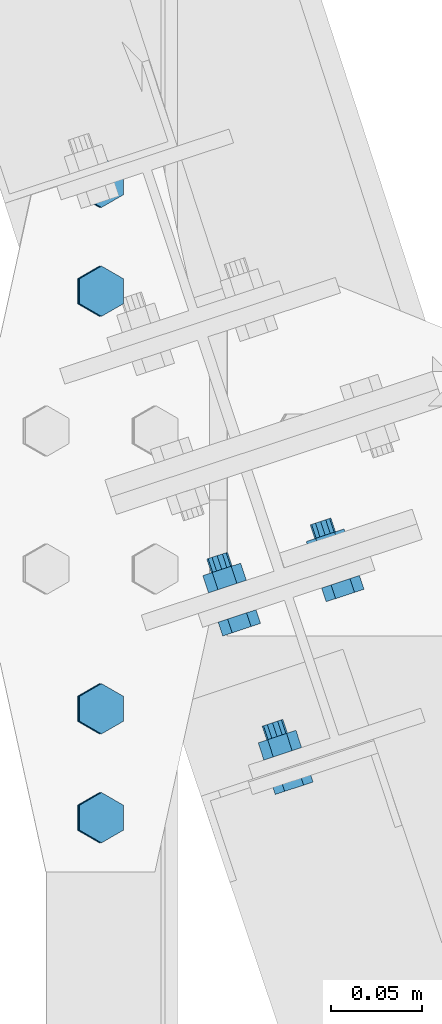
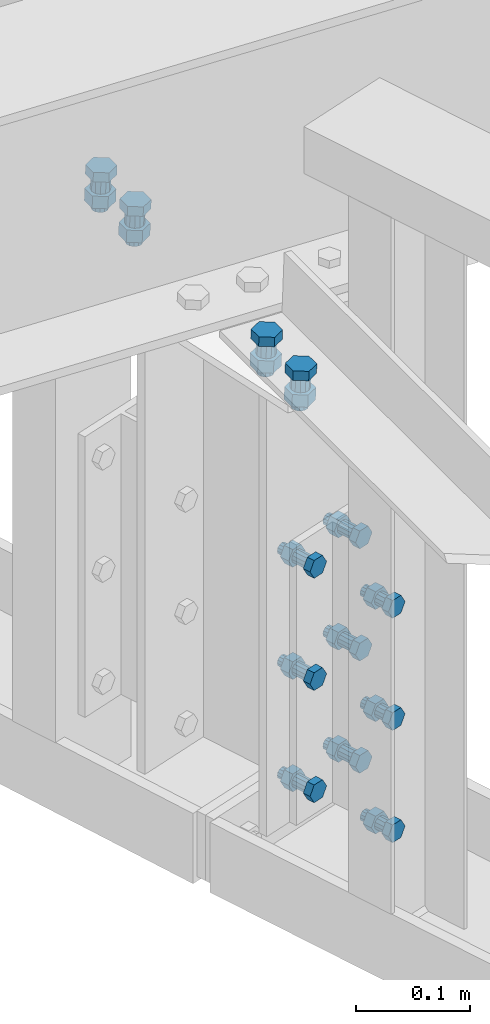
# One storey, part 48 of 3134: 4 mechanical fasteners, 4 elements without a shape of their own.
"""IFC2X3 building model written with IfcOpenShell, lengths in millimetres."""

import ifcopenshell
import ifcopenshell.guid

model = None  # the IFC model being written
_history = None  # IfcOwnerHistory: only IFC2X3 demands one
_inside = {}  # id of a spatial element -> (the spatial element, [elements in it])
_under = {}  # id of a project, library or spatial element -> (it, [spatial elements below it])
_declared = {}  # id of a project -> (the project, [libraries it declares])
_typed = {}  # id of a type object -> (the type object, [elements of that type])
_made_of = {}  # id of a material, layer set ... -> (it, [elements and type objects made of it])


def new_model(schema):
    """Start an empty IFC model of exactly this schema.

    Asked for "IFC4X3", IfcOpenShell would pick the latest addendum, in which some entities
    have other attributes; the version numbers below select the first issue.
    IFC2X3 requires an IfcOwnerHistory on every rooted entity: one is made here for all.
    """
    global model, _history
    if schema == "IFC4X3":
        model = ifcopenshell.file(schema_version=(4, 3, 0, 0))
    else:
        model = ifcopenshell.file(schema=schema)
    _inside.clear()
    _under.clear()
    _declared.clear()
    _typed.clear()
    _made_of.clear()
    _history = None
    if model.schema == "IFC2X3":
        org = make("IfcOrganization", Name="unknown")
        user = make(
            "IfcPersonAndOrganization",
            ThePerson=make("IfcPerson", FamilyName="unknown"),
            TheOrganization=org,
        )
        app = make(
            "IfcApplication",
            ApplicationDeveloper=org,
            Version="unknown",
            ApplicationFullName="unknown",
            ApplicationIdentifier="unknown",
        )
        _history = make(
            "IfcOwnerHistory",
            OwningUser=user,
            OwningApplication=app,
            ChangeAction="ADDED",
            CreationDate=0,
        )
    return model


def make(cls, **values):
    """One entity of the class cls with the attributes given. An attribute that is None is left unset."""
    return model.create_entity(
        cls, **{name: value for name, value in values.items() if value is not None}
    )


def rooted(cls, **values):
    """An entity with a GlobalId (a new one), such as an element, a storey or a relation."""
    return make(cls, GlobalId=ifcopenshell.guid.new(), OwnerHistory=_history, **values)


def si_unit(unit_type, name, prefix=None):
    """IfcSIUnit, for example si_unit("LENGTHUNIT", "METRE", prefix="MILLI")."""
    return make("IfcSIUnit", UnitType=unit_type, Prefix=prefix, Name=name)


def assignment(units):
    """IfcUnitAssignment: the units of a project."""
    return None if units is None else make("IfcUnitAssignment", Units=units)


def point(xyz):
    """IfcCartesianPoint."""
    return None if xyz is None else make("IfcCartesianPoint", Coordinates=xyz)


def direction(xyz):
    """IfcDirection."""
    return None if xyz is None else make("IfcDirection", DirectionRatios=xyz)


def frame(location, z_axis=None, x_axis=None):
    """IfcAxis2Placement3D, a coordinate frame: its origin and axes. An axis left out is left unset."""
    return make(
        "IfcAxis2Placement3D",
        Location=point(location),
        Axis=direction(z_axis),
        RefDirection=direction(x_axis),
    )


def origin_with_axes():
    """The frame at (0, 0, 0) with the z axis (0, 0, 1) and the x axis (1, 0, 0) written out."""
    return frame((0.0, 0.0, 0.0), z_axis=(0.0, 0.0, 1.0), x_axis=(1.0, 0.0, 0.0))


def place(relative_to, where):
    """IfcLocalPlacement: puts the frame where relative to a parent placement (None: the world)."""
    return make(
        "IfcLocalPlacement", PlacementRelTo=relative_to, RelativePlacement=where
    )


def context(
    kind, dimensions, precision=None, world=None, true_north=None, identifier=None
):
    """IfcGeometricRepresentationContext, for example the 3D "Model" context."""
    return make(
        "IfcGeometricRepresentationContext",
        ContextIdentifier=identifier,
        ContextType=kind,
        CoordinateSpaceDimension=dimensions,
        Precision=precision,
        WorldCoordinateSystem=world,
        TrueNorth=true_north,
    )


def subcontext(parent, identifier, kind, view, scale=None):
    """IfcGeometricRepresentationSubContext, for example "Body" below "Model"."""
    return make(
        "IfcGeometricRepresentationSubContext",
        ContextIdentifier=identifier,
        ContextType=kind,
        ParentContext=parent,
        TargetScale=scale,
        TargetView=view,
    )


def project(units=None, contexts=None):
    """IfcProject with its units and contexts."""
    return rooted(
        "IfcProject",
        Name="project",
        RepresentationContexts=contexts,
        UnitsInContext=assignment(units),
    )


def spatial(cls, under=None, at=None, **own):
    """A site, building, storey or space (cls), placed at a placement, below another one or the project."""
    s = rooted(cls, ObjectPlacement=at, **own)
    if under is not None:
        _under.setdefault(under.id(), (under, []))[1].append(s)
    return s


def faces_of(points, faces, orient=None, outer=None):
    """IfcFace entities. A face is a list of loops; a loop is a list of indices into points, from 0.

    orient and outer hold one flag for each loop. By default every Orientation is true, the
    first loop of a face is its IfcFaceOuterBound and the others are IfcFaceBound.
    """
    made = []
    for i, loops in enumerate(faces):
        bounds = []
        for j, loop in enumerate(loops):
            is_outer = j == 0 if outer is None else outer[i][j]
            bounds.append(
                make(
                    "IfcFaceOuterBound" if is_outer else "IfcFaceBound",
                    Bound=make("IfcPolyLoop", Polygon=[points[k] for k in loop]),
                    Orientation=True if orient is None else orient[i][j],
                )
            )
        made.append(make("IfcFace", Bounds=bounds))
    return made


def faceted_brep(points, faces, orient=None, outer=None, voids=None):
    """IfcFacetedBrep: a solid bounded by flat faces; with voids (closed shells), ...WithVoids."""
    shared = [point(p) for p in points]
    hull = make("IfcClosedShell", CfsFaces=faces_of(shared, faces, orient, outer))
    if voids is None:
        return make("IfcFacetedBrep", Outer=hull)
    return make(
        "IfcFacetedBrepWithVoids",
        Outer=hull,
        Voids=[
            make(cls, CfsFaces=faces_of(shared, fs, o, b)) for cls, fs, o, b in voids
        ],
    )


def shape(context_of_items, identifier, shape_type, items):
    """IfcShapeRepresentation: the items that make up one representation, for example the "Body"."""
    return make(
        "IfcShapeRepresentation",
        ContextOfItems=context_of_items,
        RepresentationIdentifier=identifier,
        RepresentationType=shape_type,
        Items=items,
    )


def source(mapping_origin, context_of_items, identifier, shape_type, items):
    """IfcRepresentationMap: a shape defined once, which mapped items show again and again."""
    return make(
        "IfcRepresentationMap",
        MappingOrigin=mapping_origin,
        MappedRepresentation=shape(context_of_items, identifier, shape_type, items),
    )


def transform(
    local_origin,
    x_axis=None,
    y_axis=None,
    z_axis=None,
    scale=None,
    scale2=None,
    scale3=None,
    uniform=True,
):
    """IfcCartesianTransformationOperator3D, or its non-uniform kind. x_axis, y_axis, z_axis: its Axis1, 2, 3."""
    if uniform:
        return make(
            "IfcCartesianTransformationOperator3D",
            Axis1=direction(x_axis),
            Axis2=direction(y_axis),
            LocalOrigin=point(local_origin),
            Scale=scale,
            Axis3=direction(z_axis),
        )
    return make(
        "IfcCartesianTransformationOperator3DnonUniform",
        Axis1=direction(x_axis),
        Axis2=direction(y_axis),
        LocalOrigin=point(local_origin),
        Scale=scale,
        Axis3=direction(z_axis),
        Scale2=scale2,
        Scale3=scale3,
    )


def mapped(mapping_source, mapping_target):
    """IfcMappedItem: shows the shape of a source again, moved by a transform."""
    return make(
        "IfcMappedItem", MappingSource=mapping_source, MappingTarget=mapping_target
    )


def material(Name=None, Category=None):
    """IfcMaterial."""
    return make("IfcMaterial", Name=Name, Category=Category)


def made_of(thing, what):
    """Note that an element or type object is made of a material, layer set ...; save() writes the relation."""
    if what is not None:
        _made_of.setdefault(what.id(), (what, []))[1].append(thing)
    return thing


def type_object(cls, material=None, **own):
    """A type object (cls), such as IfcWallType, which elements share."""
    return made_of(rooted(cls, **own), material)


def element(
    cls,
    number,
    at=None,
    inside=None,
    cuts=None,
    type_object=None,
    material=None,
    context=None,
    identifier="Body",
    shape_type=None,
    held_by="IfcProductDefinitionShape",
    body=None,
    shapes=None,
    **own,
):
    """One element of the class cls, such as IfcWall. Its Tag is "e" and its number.

    at: its placement. inside: the storey or other place that contains it. cuts: it is an
    opening in that element (IfcRelVoidsElement). A single representation is given by context,
    identifier, shape_type and body (its items); several are given by shapes. held_by: the class
    of the entity that holds the representations. save() writes the other relations.
    """
    e = rooted(cls, Tag="e%d" % number, ObjectPlacement=at, **own)
    if body is not None:
        shapes = [shape(context, identifier, shape_type, body)]
    if shapes is not None:
        e.Representation = make(held_by, Representations=shapes)
    if inside is not None:
        _inside.setdefault(inside.id(), (inside, []))[1].append(e)
    if cuts is not None:
        rooted(
            "IfcRelVoidsElement", RelatingBuildingElement=cuts, RelatedOpeningElement=e
        )
    if type_object is not None:
        _typed.setdefault(type_object.id(), (type_object, []))[1].append(e)
    return made_of(e, material)


def aggregate(whole, parts):
    """IfcRelAggregates: a whole, such as a stair, and the parts it consists of."""
    return rooted("IfcRelAggregates", RelatingObject=whole, RelatedObjects=parts)


def save(model, path):
    """Write the relations noted so far, then the file.

    IfcRelAggregates (storeys below a building ...), IfcRelContainedInSpatialStructure (elements
    in a storey), IfcRelDefinesByType, IfcRelAssociatesMaterial and IfcRelDeclares: one each for
    every whole, place, type object, material and project.
    """
    for whole, parts in _under.values():
        aggregate(whole, parts)
    for where, things in _inside.values():
        rooted(
            "IfcRelContainedInSpatialStructure",
            RelatedElements=things,
            RelatingStructure=where,
        )
    for kind, things in _typed.values():
        rooted("IfcRelDefinesByType", RelatedObjects=things, RelatingType=kind)
    for what, things in _made_of.values():
        rooted("IfcRelAssociatesMaterial", RelatedObjects=things, RelatingMaterial=what)
    for by, libraries in _declared.values():
        rooted("IfcRelDeclares", RelatingContext=by, RelatedDefinitions=libraries)
    model.write(path)


model = new_model("IFC2X3")

# Units and contexts
model_context = context("Model", 3, precision=1e-05, world=origin_with_axes())
body_context = subcontext(model_context, "Body", "Model", "MODEL_VIEW")
ifc_project = project(units=[si_unit("LENGTHUNIT", "METRE", prefix="MILLI"), si_unit("AREAUNIT", "SQUARE_METRE"), si_unit("VOLUMEUNIT", "CUBIC_METRE"), si_unit("MASSUNIT", "GRAM", prefix="KILO"), si_unit("TIMEUNIT", "SECOND"), si_unit("PLANEANGLEUNIT", "RADIAN"), si_unit("SOLIDANGLEUNIT", "STERADIAN"), si_unit("THERMODYNAMICTEMPERATUREUNIT", "DEGREE_CELSIUS"), si_unit("LUMINOUSINTENSITYUNIT", "LUMEN")], contexts=[model_context])

# Site, building, storey
site_placement = place(None, origin_with_axes())
site = spatial("IfcSite", under=ifc_project, at=site_placement, CompositionType="ELEMENT")
building_placement = place(site_placement, origin_with_axes())
building = spatial("IfcBuilding", under=site, at=building_placement, Name="Undefined", CompositionType="ELEMENT")
storey_placement = place(building_placement, origin_with_axes())
storey = spatial("IfcBuildingStorey", under=building, at=storey_placement, Name="Undefined", CompositionType="ELEMENT", Elevation=0.0)

# Assembly, mechanical fastener
assembly_1_placement = place(storey_placement, origin_with_axes())
assembly_1 = element("IfcElementAssembly", 1, at=assembly_1_placement, inside=storey, Name="HEA100", AssemblyPlace="NOTDEFINED", PredefinedType="RIGID_FRAME")
ifc_material = material(Name="8.8")
mechanical_fastener_type = type_object("IfcMechanicalFastenerType", Name="Bolt assembly")
shared_shape_1 = source(origin_with_axes(), body_context, "Body", "Brep", [
    faceted_brep([(10.9696551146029, -12.0, 0.0), (5.48482755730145, -12.0, 9.5), (-5.48482755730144, -12.0, 9.5), (-10.9696551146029, -12.0, 1.34339530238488e-15), (-5.48482755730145, -12.0, -9.5), (5.48482755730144, -12.0, -9.50000000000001), (5.48482755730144, -4.0, -9.50000000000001), (-5.48482755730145, -4.0, -9.5), (-10.9696551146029, -4.0, 1.34339530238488e-15), (-5.48482755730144, -4.0, 9.5), (5.48482755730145, -4.0, 9.5), (10.9696551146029, -4.0, 0.0), (6.0, -4.0, 0.0), (5.19615242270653, -4.0, 3.00000000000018), (2.99999999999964, -4.0, 5.19615242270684), (-6.21801588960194e-13, -4.0, 6.0), (-3.00000000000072, -4.0, 5.19615242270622), (-5.19615242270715, -4.0, 2.9999999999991), (-6.0, -4.0, -1.24360317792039e-12), (-5.19615242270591, -4.0, -3.00000000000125), (-2.99999999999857, -4.0, -5.19615242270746), (1.85874342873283e-12, -4.0, -6.0), (3.00000000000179, -4.0, -5.1961524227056), (5.19615242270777, -4.0, -2.99999999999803), (5.19615242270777, 26.0, -2.99999999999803), (3.00000000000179, 26.0, -5.1961524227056), (1.85874342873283e-12, 26.0, -6.0), (-2.99999999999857, 26.0, -5.19615242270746), (-5.19615242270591, 26.0, -3.00000000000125), (-6.0, 26.0, -1.24360317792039e-12), (-5.19615242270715, 26.0, 2.9999999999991), (-3.00000000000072, 26.0, 5.19615242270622), (-6.21801588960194e-13, 26.0, 6.0), (2.99999999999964, 26.0, 5.19615242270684), (5.19615242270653, 26.0, 3.00000000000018), (6.0, 26.0, 0.0), (10.9696551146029, 8.0, 0.0), (5.48482755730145, 8.0, 9.5), (-5.48482755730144, 8.0, 9.5), (-10.9696551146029, 8.0, 1.34339530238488e-15), (-5.48482755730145, 8.0, -9.5), (5.48482755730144, 8.0, -9.50000000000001), (5.48482755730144, 18.0, -9.50000000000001), (-5.48482755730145, 18.0, -9.5), (-10.9696551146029, 18.0, 1.34339530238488e-15), (-5.48482755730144, 18.0, 9.5), (5.48482755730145, 18.0, 9.5), (10.9696551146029, 18.0, 0.0)], [[[0, 1, 2, 3, 4, 5]], [[6, 7, 8, 9, 10, 11]], [[0, 11, 10, 1]], [[1, 10, 9, 2]], [[2, 9, 8, 3]], [[3, 8, 7, 4]], [[4, 7, 6, 5]], [[5, 6, 11, 0]], [[12, 13, 14, 15, 16, 17, 18, 19, 20, 21, 22, 23]], [[24, 25, 26, 27, 28, 29, 30, 31, 32, 33, 34, 35]], [[12, 35, 34, 13]], [[13, 34, 33, 14]], [[14, 33, 32, 15]], [[15, 32, 31, 16]], [[16, 31, 30, 17]], [[17, 30, 29, 18]], [[18, 29, 28, 19]], [[19, 28, 27, 20]], [[20, 27, 26, 21]], [[21, 26, 25, 22]], [[22, 25, 24, 23]], [[23, 24, 35, 12]], [[36, 37, 38, 39, 40, 41]], [[42, 43, 44, 45, 46, 47]], [[36, 47, 46, 37]], [[37, 46, 45, 38]], [[38, 45, 44, 39]], [[39, 44, 43, 40]], [[40, 43, 42, 41]], [[41, 42, 47, 36]]]),
    faceted_brep([(7.0, -3.9, 0.0), (6.06217782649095, -3.9, 3.50000000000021), (3.49999999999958, -3.9, 6.06217782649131), (-7.25435187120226e-13, -3.9, 7.0), (-3.50000000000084, -3.9, 6.06217782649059), (-6.06217782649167, -3.9, 3.49999999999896), (-7.0, -3.9, -1.45087037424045e-12), (-6.06217782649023, -3.9, -3.50000000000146), (-3.49999999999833, -3.9, -6.06217782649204), (2.1685340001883e-12, -3.9, -7.0), (3.50000000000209, -3.9, -6.06217782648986), (6.0621778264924, -3.9, -3.4999999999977), (6.0621778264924, 0.0999999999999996, -3.4999999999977), (3.50000000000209, 0.0999999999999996, -6.06217782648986), (2.1685340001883e-12, 0.0999999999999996, -7.0), (-3.49999999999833, 0.0999999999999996, -6.06217782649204), (-6.06217782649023, 0.0999999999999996, -3.50000000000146), (-7.0, 0.0999999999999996, -1.45087037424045e-12), (-6.06217782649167, 0.0999999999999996, 3.49999999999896), (-3.50000000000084, 0.0999999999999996, 6.06217782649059), (-7.25435187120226e-13, 0.0999999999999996, 7.0), (3.49999999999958, 0.0999999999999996, 6.06217782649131), (6.06217782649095, 0.0999999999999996, 3.50000000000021), (7.0, 0.0999999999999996, 0.0), (7.0, -0.1, 0.0), (6.06217782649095, -0.1, 3.50000000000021), (3.49999999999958, -0.1, 6.06217782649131), (-7.25435187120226e-13, -0.1, 7.0), (-3.50000000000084, -0.1, 6.06217782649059), (-6.06217782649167, -0.1, 3.49999999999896), (-7.0, -0.1, -1.45087037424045e-12), (-6.06217782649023, -0.1, -3.50000000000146), (-3.49999999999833, -0.1, -6.06217782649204), (2.1685340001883e-12, -0.1, -7.0), (3.50000000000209, -0.1, -6.06217782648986), (6.0621778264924, -0.1, -3.4999999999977), (6.0621778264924, 8.0000000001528, -3.4999999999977), (3.50000000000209, 8.0000000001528, -6.06217782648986), (2.1685340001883e-12, 8.0000000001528, -7.0), (-3.49999999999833, 8.0000000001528, -6.06217782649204), (-6.06217782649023, 8.0000000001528, -3.50000000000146), (-7.0, 8.0000000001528, -1.45087037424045e-12), (-6.06217782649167, 8.0000000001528, 3.49999999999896), (-3.50000000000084, 8.0000000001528, 6.06217782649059), (-7.25435187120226e-13, 8.0000000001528, 7.0), (3.49999999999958, 8.0000000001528, 6.06217782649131), (6.06217782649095, 8.0000000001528, 3.50000000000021), (7.0, 8.0000000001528, 0.0)], [[[0, 1, 2, 3, 4, 5, 6, 7, 8, 9, 10, 11]], [[12, 13, 14, 15, 16, 17, 18, 19, 20, 21, 22, 23]], [[0, 23, 22, 1]], [[1, 22, 21, 2]], [[2, 21, 20, 3]], [[3, 20, 19, 4]], [[4, 19, 18, 5]], [[5, 18, 17, 6]], [[6, 17, 16, 7]], [[7, 16, 15, 8]], [[8, 15, 14, 9]], [[9, 14, 13, 10]], [[10, 13, 12, 11]], [[11, 12, 23, 0]], [[24, 25, 26, 27, 28, 29, 30, 31, 32, 33, 34, 35]], [[36, 37, 38, 39, 40, 41, 42, 43, 44, 45, 46, 47]], [[24, 47, 46, 25]], [[25, 46, 45, 26]], [[26, 45, 44, 27]], [[27, 44, 43, 28]], [[28, 43, 42, 29]], [[29, 42, 41, 30]], [[30, 41, 40, 31]], [[31, 40, 39, 32]], [[32, 39, 38, 33]], [[33, 38, 37, 34]], [[34, 37, 36, 35]], [[35, 36, 47, 24]]]),
])
mechanical_fastener_1_placement = place(assembly_1_placement, frame((4750.58345825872, 19302.5975981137, 3170.0), z_axis=(0.0, 0.0, 1.0), x_axis=(0.949347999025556, 0.314226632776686, 0.0)))
mechanical_fastener_1 = element("IfcMechanicalFastener", 2, at=mechanical_fastener_1_placement, type_object=mechanical_fastener_type, material=ifc_material, Name="Bolt assembly", NominalDiameter=12.0, NominalLength=30.0, context=body_context, shape_type="MappedRepresentation", body=[
    mapped(shared_shape_1, transform((0.0, 0.0, -120.0))),
    mapped(shared_shape_1, transform((0.0, 0.0, 0.0))),
    mapped(shared_shape_1, transform((0.0, 0.0, 120.0))),
])
aggregate(assembly_1, [mechanical_fastener_1])

assembly_2_placement = place(storey_placement, origin_with_axes())
assembly_2 = element("IfcElementAssembly", 3, at=assembly_2_placement, inside=storey, Name="HEA160", AssemblyPlace="NOTDEFINED", PredefinedType="RIGID_FRAME")
shared_shape_2 = source(origin_with_axes(), body_context, "Body", "Brep", [
    faceted_brep([(10.9696551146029, -16.0, 0.0), (5.48482755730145, -16.0, 9.5), (-5.48482755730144, -16.0, 9.5), (-10.9696551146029, -16.0, 1.34339530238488e-15), (-5.48482755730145, -16.0, -9.5), (5.48482755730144, -16.0, -9.50000000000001), (5.48482755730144, -8.0, -9.50000000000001), (-5.48482755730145, -8.0, -9.5), (-10.9696551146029, -8.0, 1.34339530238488e-15), (-5.48482755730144, -8.0, 9.5), (5.48482755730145, -8.0, 9.5), (10.9696551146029, -8.0, 0.0), (6.0, -8.0, 0.0), (5.19615242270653, -8.0, 3.00000000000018), (2.99999999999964, -8.0, 5.19615242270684), (-6.21801588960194e-13, -8.0, 6.0), (-3.00000000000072, -8.0, 5.19615242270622), (-5.19615242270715, -8.0, 2.9999999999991), (-6.0, -8.0, -1.24360317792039e-12), (-5.19615242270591, -8.0, -3.00000000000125), (-2.99999999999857, -8.0, -5.19615242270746), (1.85874342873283e-12, -8.0, -6.0), (3.00000000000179, -8.0, -5.1961524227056), (5.19615242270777, -8.0, -2.99999999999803), (5.19615242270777, 27.0, -2.99999999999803), (3.00000000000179, 27.0, -5.1961524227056), (1.85874342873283e-12, 27.0, -6.0), (-2.99999999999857, 27.0, -5.19615242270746), (-5.19615242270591, 27.0, -3.00000000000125), (-6.0, 27.0, -1.24360317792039e-12), (-5.19615242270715, 27.0, 2.9999999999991), (-3.00000000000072, 27.0, 5.19615242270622), (-6.21801588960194e-13, 27.0, 6.0), (2.99999999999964, 27.0, 5.19615242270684), (5.19615242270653, 27.0, 3.00000000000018), (6.0, 27.0, 0.0), (10.9696551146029, 9.00000000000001, 0.0), (5.48482755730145, 9.00000000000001, 9.5), (-5.48482755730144, 9.00000000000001, 9.5), (-10.9696551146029, 9.00000000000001, 1.34339530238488e-15), (-5.48482755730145, 9.00000000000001, -9.5), (5.48482755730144, 9.00000000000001, -9.50000000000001), (5.48482755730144, 19.0, -9.50000000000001), (-5.48482755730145, 19.0, -9.5), (-10.9696551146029, 19.0, 1.34339530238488e-15), (-5.48482755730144, 19.0, 9.5), (5.48482755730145, 19.0, 9.5), (10.9696551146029, 19.0, 0.0)], [[[0, 1, 2, 3, 4, 5]], [[6, 7, 8, 9, 10, 11]], [[0, 11, 10, 1]], [[1, 10, 9, 2]], [[2, 9, 8, 3]], [[3, 8, 7, 4]], [[4, 7, 6, 5]], [[5, 6, 11, 0]], [[12, 13, 14, 15, 16, 17, 18, 19, 20, 21, 22, 23]], [[24, 25, 26, 27, 28, 29, 30, 31, 32, 33, 34, 35]], [[12, 35, 34, 13]], [[13, 34, 33, 14]], [[14, 33, 32, 15]], [[15, 32, 31, 16]], [[16, 31, 30, 17]], [[17, 30, 29, 18]], [[18, 29, 28, 19]], [[19, 28, 27, 20]], [[20, 27, 26, 21]], [[21, 26, 25, 22]], [[22, 25, 24, 23]], [[23, 24, 35, 12]], [[36, 37, 38, 39, 40, 41]], [[42, 43, 44, 45, 46, 47]], [[36, 47, 46, 37]], [[37, 46, 45, 38]], [[38, 45, 44, 39]], [[39, 44, 43, 40]], [[40, 43, 42, 41]], [[41, 42, 47, 36]]]),
    faceted_brep([(7.0, -7.9, 0.0), (6.06217782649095, -7.9, 3.50000000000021), (3.49999999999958, -7.9, 6.06217782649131), (-7.25435187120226e-13, -7.9, 7.0), (-3.50000000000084, -7.9, 6.06217782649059), (-6.06217782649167, -7.9, 3.49999999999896), (-7.0, -7.9, -1.45087037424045e-12), (-6.06217782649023, -7.9, -3.50000000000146), (-3.49999999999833, -7.9, -6.06217782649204), (2.1685340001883e-12, -7.9, -7.0), (3.50000000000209, -7.9, -6.06217782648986), (6.0621778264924, -7.9, -3.4999999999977), (6.0621778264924, 0.0999999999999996, -3.4999999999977), (3.50000000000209, 0.0999999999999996, -6.06217782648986), (2.1685340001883e-12, 0.0999999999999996, -7.0), (-3.49999999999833, 0.0999999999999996, -6.06217782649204), (-6.06217782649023, 0.0999999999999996, -3.50000000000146), (-7.0, 0.0999999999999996, -1.45087037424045e-12), (-6.06217782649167, 0.0999999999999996, 3.49999999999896), (-3.50000000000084, 0.0999999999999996, 6.06217782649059), (-7.25435187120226e-13, 0.0999999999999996, 7.0), (3.49999999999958, 0.0999999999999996, 6.06217782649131), (6.06217782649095, 0.0999999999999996, 3.50000000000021), (7.0, 0.0999999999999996, 0.0), (7.0, -0.1, 0.0), (6.06217782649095, -0.1, 3.50000000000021), (3.49999999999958, -0.1, 6.06217782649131), (-7.25435187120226e-13, -0.1, 7.0), (-3.50000000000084, -0.1, 6.06217782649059), (-6.06217782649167, -0.1, 3.49999999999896), (-7.0, -0.1, -1.45087037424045e-12), (-6.06217782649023, -0.1, -3.50000000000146), (-3.49999999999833, -0.1, -6.06217782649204), (2.1685340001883e-12, -0.1, -7.0), (3.50000000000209, -0.1, -6.06217782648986), (6.0621778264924, -0.1, -3.4999999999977), (6.0621778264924, 9.00000000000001, -3.4999999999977), (3.50000000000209, 9.00000000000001, -6.06217782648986), (2.1685340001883e-12, 9.00000000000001, -7.0), (-3.49999999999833, 9.00000000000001, -6.06217782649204), (-6.06217782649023, 9.00000000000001, -3.50000000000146), (-7.0, 9.00000000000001, -1.45087037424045e-12), (-6.06217782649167, 9.00000000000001, 3.49999999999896), (-3.50000000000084, 9.00000000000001, 6.06217782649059), (-7.25435187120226e-13, 9.00000000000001, 7.0), (3.49999999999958, 9.00000000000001, 6.06217782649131), (6.06217782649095, 9.00000000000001, 3.50000000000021), (7.0, 9.00000000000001, 0.0)], [[[0, 1, 2, 3, 4, 5, 6, 7, 8, 9, 10, 11]], [[12, 13, 14, 15, 16, 17, 18, 19, 20, 21, 22, 23]], [[0, 23, 22, 1]], [[1, 22, 21, 2]], [[2, 21, 20, 3]], [[3, 20, 19, 4]], [[4, 19, 18, 5]], [[5, 18, 17, 6]], [[6, 17, 16, 7]], [[7, 16, 15, 8]], [[8, 15, 14, 9]], [[9, 14, 13, 10]], [[10, 13, 12, 11]], [[11, 12, 23, 0]], [[24, 25, 26, 27, 28, 29, 30, 31, 32, 33, 34, 35]], [[36, 37, 38, 39, 40, 41, 42, 43, 44, 45, 46, 47]], [[24, 47, 46, 25]], [[25, 46, 45, 26]], [[26, 45, 44, 27]], [[27, 44, 43, 28]], [[28, 43, 42, 29]], [[29, 42, 41, 30]], [[30, 41, 40, 31]], [[31, 40, 39, 32]], [[32, 39, 38, 33]], [[33, 38, 37, 34]], [[34, 37, 36, 35]], [[35, 36, 47, 24]]]),
])
mechanical_fastener_2_placement = place(assembly_2_placement, frame((4720.41769633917, 19393.735004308, 3170.0), z_axis=(0.0, 0.0, 1.0), x_axis=(0.949347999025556, 0.314226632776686, 0.0)))
mechanical_fastener_2 = element("IfcMechanicalFastener", 4, at=mechanical_fastener_2_placement, type_object=mechanical_fastener_type, material=ifc_material, Name="Bolt assembly", NominalDiameter=12.0, NominalLength=35.0, context=body_context, shape_type="MappedRepresentation", body=[
    mapped(shared_shape_2, transform((0.0, 0.0, -120.0))),
    mapped(shared_shape_2, transform((60.0000000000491, 0.0, -120.0))),
    mapped(shared_shape_2, transform((0.0, 0.0, 0.0))),
    mapped(shared_shape_2, transform((59.9999999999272, 0.0, 5.40239852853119e-10))),
    mapped(shared_shape_2, transform((0.0, 0.0, 120.0))),
    mapped(shared_shape_2, transform((60.0000000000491, 0.0, 120.0))),
])
aggregate(assembly_2, [mechanical_fastener_2])

assembly_3_placement = place(storey_placement, origin_with_axes())
assembly_3 = element("IfcElementAssembly", 5, at=assembly_3_placement, inside=storey, Name="PL8", AssemblyPlace="NOTDEFINED", PredefinedType="RIGID_FRAME")
shared_shape_3 = source(origin_with_axes(), body_context, "Body", "Brep", [
    faceted_brep([(13.856406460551, -21.0000017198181, 0.0), (6.92820323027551, -21.0000017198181, 12.0), (-6.92820323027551, -21.0000017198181, 12.0), (-13.856406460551, -21.0000017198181, 1.69692038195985e-15), (-6.92820323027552, -21.0000017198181, -12.0), (6.9282032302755, -21.0000017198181, -12.0), (6.9282032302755, -11.0000017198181, -12.0), (-6.92820323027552, -11.0000017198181, -12.0), (-13.856406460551, -11.0000017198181, 1.69692038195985e-15), (-6.92820323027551, -11.0000017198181, 12.0), (6.92820323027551, -11.0000017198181, 12.0), (13.856406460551, -11.0000017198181, 0.0), (8.0, -11.0000017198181, 0.0), (6.92820323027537, -11.0000017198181, 4.00000000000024), (3.99999999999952, -11.0000017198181, 6.92820323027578), (-8.29068785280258e-13, -11.0000017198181, 8.0), (-4.00000000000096, -11.0000017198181, 6.92820323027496), (-6.9282032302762, -11.0000017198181, 3.99999999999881), (-8.0, -11.0000017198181, -1.65813757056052e-12), (-6.92820323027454, -11.0000017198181, -4.00000000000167), (-3.99999999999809, -11.0000017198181, -6.92820323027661), (2.47832457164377e-12, -11.0000017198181, -8.0), (4.00000000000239, -11.0000017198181, -6.92820323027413), (6.92820323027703, -11.0000017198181, -3.99999999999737), (6.92820323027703, 23.9999999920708, -3.99999999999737), (4.00000000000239, 23.9999999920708, -6.92820323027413), (2.47832457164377e-12, 23.9999999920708, -8.0), (-3.99999999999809, 23.9999999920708, -6.92820323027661), (-6.92820323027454, 23.9999999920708, -4.00000000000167), (-8.0, 23.9999999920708, -1.65813757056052e-12), (-6.9282032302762, 23.9999999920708, 3.99999999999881), (-4.00000000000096, 23.9999999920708, 6.92820323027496), (-8.29068785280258e-13, 23.9999999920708, 8.0), (3.99999999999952, 23.9999999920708, 6.92820323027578), (6.92820323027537, 23.9999999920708, 4.00000000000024), (8.0, 23.9999999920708, 0.0), (13.856406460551, 3.99999999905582, 0.0), (6.92820323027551, 3.99999999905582, 12.0), (-6.92820323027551, 3.99999999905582, 12.0), (-13.856406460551, 3.99999999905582, 1.69692038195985e-15), (-6.92820323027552, 3.99999999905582, -12.0), (6.9282032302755, 3.99999999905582, -12.0), (6.9282032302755, 16.9999999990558, -12.0), (-6.92820323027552, 16.9999999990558, -12.0), (-13.856406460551, 16.9999999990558, 1.69692038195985e-15), (-6.92820323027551, 16.9999999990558, 12.0), (6.92820323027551, 16.9999999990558, 12.0), (13.856406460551, 16.9999999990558, 0.0)], [[[0, 1, 2, 3, 4, 5]], [[6, 7, 8, 9, 10, 11]], [[0, 11, 10, 1]], [[1, 10, 9, 2]], [[2, 9, 8, 3]], [[3, 8, 7, 4]], [[4, 7, 6, 5]], [[5, 6, 11, 0]], [[12, 13, 14, 15, 16, 17, 18, 19, 20, 21, 22, 23]], [[24, 25, 26, 27, 28, 29, 30, 31, 32, 33, 34, 35]], [[12, 35, 34, 13]], [[13, 34, 33, 14]], [[14, 33, 32, 15]], [[15, 32, 31, 16]], [[16, 31, 30, 17]], [[17, 30, 29, 18]], [[18, 29, 28, 19]], [[19, 28, 27, 20]], [[20, 27, 26, 21]], [[21, 26, 25, 22]], [[22, 25, 24, 23]], [[23, 24, 35, 12]], [[36, 37, 38, 39, 40, 41]], [[42, 43, 44, 45, 46, 47]], [[36, 47, 46, 37]], [[37, 46, 45, 38]], [[38, 45, 44, 39]], [[39, 44, 43, 40]], [[40, 43, 42, 41]], [[41, 42, 47, 36]]]),
    faceted_brep([(9.0, -10.9000017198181, 0.0), (7.79422863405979, -10.9000017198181, 4.50000000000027), (4.49999999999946, -10.9000017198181, 7.79422863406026), (-9.3270238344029e-13, -10.9000017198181, 9.0), (-4.50000000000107, -10.9000017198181, 7.79422863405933), (-7.79422863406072, -10.9000017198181, 4.49999999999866), (-9.0, -10.9000017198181, -1.86540476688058e-12), (-7.79422863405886, -10.9000017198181, -4.50000000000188), (-4.49999999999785, -10.9000017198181, -7.79422863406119), (2.78811514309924e-12, -10.9000017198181, -9.0), (4.50000000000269, -10.9000017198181, -7.7942286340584), (7.79422863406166, -10.9000017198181, -4.49999999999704), (7.79422863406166, -3.9, -4.49999999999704), (4.50000000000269, -3.9, -7.7942286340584), (2.78811514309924e-12, -3.9, -9.0), (-4.49999999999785, -3.9, -7.79422863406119), (-7.79422863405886, -3.9, -4.50000000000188), (-9.0, -3.9, -1.86540476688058e-12), (-7.79422863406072, -3.9, 4.49999999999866), (-4.50000000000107, -3.9, 7.79422863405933), (-9.3270238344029e-13, -3.9, 9.0), (4.49999999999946, -3.9, 7.79422863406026), (7.79422863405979, -3.9, 4.50000000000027), (9.0, -3.9, 0.0), (9.0, -4.10000000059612, 0.0), (7.79422863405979, -4.10000000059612, 4.50000000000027), (4.49999999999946, -4.10000000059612, 7.79422863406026), (-9.3270238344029e-13, -4.10000000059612, 9.0), (-4.50000000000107, -4.10000000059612, 7.79422863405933), (-7.79422863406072, -4.10000000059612, 4.49999999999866), (-9.0, -4.10000000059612, -1.86540476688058e-12), (-7.79422863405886, -4.10000000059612, -4.50000000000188), (-4.49999999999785, -4.10000000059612, -7.79422863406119), (2.78811514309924e-12, -4.10000000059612, -9.0), (4.50000000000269, -4.10000000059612, -7.7942286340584), (7.79422863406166, -4.10000000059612, -4.49999999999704), (7.79422863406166, 4.00000375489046, -4.49999999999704), (4.50000000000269, 4.00000375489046, -7.7942286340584), (2.78811514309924e-12, 4.00000375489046, -9.0), (-4.49999999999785, 4.00000375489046, -7.79422863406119), (-7.79422863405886, 4.00000375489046, -4.50000000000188), (-9.0, 4.00000375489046, -1.86540476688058e-12), (-7.79422863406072, 4.00000375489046, 4.49999999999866), (-4.50000000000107, 4.00000375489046, 7.79422863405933), (-9.3270238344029e-13, 4.00000375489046, 9.0), (4.49999999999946, 4.00000375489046, 7.79422863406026), (7.79422863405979, 4.00000375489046, 4.50000000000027), (9.0, 4.00000375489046, 0.0)], [[[0, 1, 2, 3, 4, 5, 6, 7, 8, 9, 10, 11]], [[12, 13, 14, 15, 16, 17, 18, 19, 20, 21, 22, 23]], [[0, 23, 22, 1]], [[1, 22, 21, 2]], [[2, 21, 20, 3]], [[3, 20, 19, 4]], [[4, 19, 18, 5]], [[5, 18, 17, 6]], [[6, 17, 16, 7]], [[7, 16, 15, 8]], [[8, 15, 14, 9]], [[9, 14, 13, 10]], [[10, 13, 12, 11]], [[11, 12, 23, 0]], [[24, 25, 26, 27, 28, 29, 30, 31, 32, 33, 34, 35]], [[36, 37, 38, 39, 40, 41, 42, 43, 44, 45, 46, 47]], [[24, 47, 46, 25]], [[25, 46, 45, 26]], [[26, 45, 44, 27]], [[27, 44, 43, 28]], [[28, 43, 42, 29]], [[29, 42, 41, 30]], [[30, 41, 40, 31]], [[31, 40, 39, 32]], [[32, 39, 38, 33]], [[33, 38, 37, 34]], [[34, 37, 36, 35]], [[35, 36, 47, 24]]]),
])
mechanical_fastener_3_placement = place(assembly_3_placement, frame((4647.50483525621, 19565.0, 3576.15051900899), z_axis=(-0.999388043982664, 0.0, 0.0349791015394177), x_axis=(0.0, 1.0, 0.0)))
mechanical_fastener_3 = element("IfcMechanicalFastener", 6, at=mechanical_fastener_3_placement, type_object=mechanical_fastener_type, material=ifc_material, Name="Bolt assembly", NominalDiameter=16.0, NominalLength=35.0, context=body_context, shape_type="MappedRepresentation", body=[
    mapped(shared_shape_3, transform((0.0, 0.0, 0.0))),
    mapped(shared_shape_3, transform((59.9999999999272, 0.0, 5.40239852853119e-10))),
])
aggregate(assembly_3, [mechanical_fastener_3])

assembly_4_placement = place(storey_placement, origin_with_axes())
assembly_4 = element("IfcElementAssembly", 7, at=assembly_4_placement, inside=storey, AssemblyPlace="NOTDEFINED", PredefinedType="RIGID_FRAME")
shared_shape_4 = source(origin_with_axes(), body_context, "Body", "Brep", [
    faceted_brep([(13.856406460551, -21.0000017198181, 0.0), (6.92820323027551, -21.0000017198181, 12.0), (-6.92820323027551, -21.0000017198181, 12.0), (-13.856406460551, -21.0000017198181, 1.69692038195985e-15), (-6.92820323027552, -21.0000017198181, -12.0), (6.9282032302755, -21.0000017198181, -12.0), (6.9282032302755, -11.0000017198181, -12.0), (-6.92820323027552, -11.0000017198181, -12.0), (-13.856406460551, -11.0000017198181, 1.69692038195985e-15), (-6.92820323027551, -11.0000017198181, 12.0), (6.92820323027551, -11.0000017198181, 12.0), (13.856406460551, -11.0000017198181, 0.0), (8.0, -11.0000017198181, 0.0), (6.92820323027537, -11.0000017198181, 4.00000000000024), (3.99999999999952, -11.0000017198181, 6.92820323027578), (-8.29068785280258e-13, -11.0000017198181, 8.0), (-4.00000000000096, -11.0000017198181, 6.92820323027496), (-6.9282032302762, -11.0000017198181, 3.99999999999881), (-8.0, -11.0000017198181, -1.65813757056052e-12), (-6.92820323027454, -11.0000017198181, -4.00000000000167), (-3.99999999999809, -11.0000017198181, -6.92820323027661), (2.47832457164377e-12, -11.0000017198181, -8.0), (4.00000000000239, -11.0000017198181, -6.92820323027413), (6.92820323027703, -11.0000017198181, -3.99999999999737), (6.92820323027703, 23.9999999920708, -3.99999999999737), (4.00000000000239, 23.9999999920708, -6.92820323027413), (2.47832457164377e-12, 23.9999999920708, -8.0), (-3.99999999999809, 23.9999999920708, -6.92820323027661), (-6.92820323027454, 23.9999999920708, -4.00000000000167), (-8.0, 23.9999999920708, -1.65813757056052e-12), (-6.9282032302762, 23.9999999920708, 3.99999999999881), (-4.00000000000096, 23.9999999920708, 6.92820323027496), (-8.29068785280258e-13, 23.9999999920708, 8.0), (3.99999999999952, 23.9999999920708, 6.92820323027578), (6.92820323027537, 23.9999999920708, 4.00000000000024), (8.0, 23.9999999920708, 0.0), (13.856406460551, 3.99999999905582, 0.0), (6.92820323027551, 3.99999999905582, 12.0), (-6.92820323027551, 3.99999999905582, 12.0), (-13.856406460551, 3.99999999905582, 1.69692038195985e-15), (-6.92820323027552, 3.99999999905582, -12.0), (6.9282032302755, 3.99999999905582, -12.0), (6.9282032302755, 16.9999999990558, -12.0), (-6.92820323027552, 16.9999999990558, -12.0), (-13.856406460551, 16.9999999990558, 1.69692038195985e-15), (-6.92820323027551, 16.9999999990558, 12.0), (6.92820323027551, 16.9999999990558, 12.0), (13.856406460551, 16.9999999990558, 0.0)], [[[0, 1, 2, 3, 4, 5]], [[6, 7, 8, 9, 10, 11]], [[0, 11, 10, 1]], [[1, 10, 9, 2]], [[2, 9, 8, 3]], [[3, 8, 7, 4]], [[4, 7, 6, 5]], [[5, 6, 11, 0]], [[12, 13, 14, 15, 16, 17, 18, 19, 20, 21, 22, 23]], [[24, 25, 26, 27, 28, 29, 30, 31, 32, 33, 34, 35]], [[12, 35, 34, 13]], [[13, 34, 33, 14]], [[14, 33, 32, 15]], [[15, 32, 31, 16]], [[16, 31, 30, 17]], [[17, 30, 29, 18]], [[18, 29, 28, 19]], [[19, 28, 27, 20]], [[20, 27, 26, 21]], [[21, 26, 25, 22]], [[22, 25, 24, 23]], [[23, 24, 35, 12]], [[36, 37, 38, 39, 40, 41]], [[42, 43, 44, 45, 46, 47]], [[36, 47, 46, 37]], [[37, 46, 45, 38]], [[38, 45, 44, 39]], [[39, 44, 43, 40]], [[40, 43, 42, 41]], [[41, 42, 47, 36]]]),
    faceted_brep([(9.0, -4.10000000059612, 0.0), (7.79422863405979, -4.10000000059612, 4.50000000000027), (4.49999999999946, -4.10000000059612, 7.79422863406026), (-9.3270238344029e-13, -4.10000000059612, 9.0), (-4.50000000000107, -4.10000000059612, 7.79422863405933), (-7.79422863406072, -4.10000000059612, 4.49999999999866), (-9.0, -4.10000000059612, -1.86540476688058e-12), (-7.79422863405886, -4.10000000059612, -4.50000000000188), (-4.49999999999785, -4.10000000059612, -7.79422863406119), (2.78811514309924e-12, -4.10000000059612, -9.0), (4.50000000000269, -4.10000000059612, -7.7942286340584), (7.79422863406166, -4.10000000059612, -4.49999999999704), (7.79422863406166, 4.00000375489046, -4.49999999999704), (4.50000000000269, 4.00000375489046, -7.7942286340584), (2.78811514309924e-12, 4.00000375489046, -9.0), (-4.49999999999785, 4.00000375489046, -7.79422863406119), (-7.79422863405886, 4.00000375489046, -4.50000000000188), (-9.0, 4.00000375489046, -1.86540476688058e-12), (-7.79422863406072, 4.00000375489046, 4.49999999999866), (-4.50000000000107, 4.00000375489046, 7.79422863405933), (-9.3270238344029e-13, 4.00000375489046, 9.0), (4.49999999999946, 4.00000375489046, 7.79422863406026), (7.79422863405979, 4.00000375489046, 4.50000000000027), (9.0, 4.00000375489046, 0.0), (9.0, -10.9000017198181, 0.0), (7.79422863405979, -10.9000017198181, 4.50000000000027), (4.49999999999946, -10.9000017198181, 7.79422863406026), (-9.3270238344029e-13, -10.9000017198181, 9.0), (-4.50000000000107, -10.9000017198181, 7.79422863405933), (-7.79422863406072, -10.9000017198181, 4.49999999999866), (-9.0, -10.9000017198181, -1.86540476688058e-12), (-7.79422863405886, -10.9000017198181, -4.50000000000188), (-4.49999999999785, -10.9000017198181, -7.79422863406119), (2.78811514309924e-12, -10.9000017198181, -9.0), (4.50000000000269, -10.9000017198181, -7.7942286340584), (7.79422863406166, -10.9000017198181, -4.49999999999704), (7.79422863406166, -3.9, -4.49999999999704), (4.50000000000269, -3.9, -7.7942286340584), (2.78811514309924e-12, -3.9, -9.0), (-4.49999999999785, -3.9, -7.79422863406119), (-7.79422863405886, -3.9, -4.50000000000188), (-9.0, -3.9, -1.86540476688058e-12), (-7.79422863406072, -3.9, 4.49999999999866), (-4.50000000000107, -3.9, 7.79422863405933), (-9.3270238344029e-13, -3.9, 9.0), (4.49999999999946, -3.9, 7.79422863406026), (7.79422863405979, -3.9, 4.50000000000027), (9.0, -3.9, 0.0)], [[[0, 1, 2, 3, 4, 5, 6, 7, 8, 9, 10, 11]], [[12, 13, 14, 15, 16, 17, 18, 19, 20, 21, 22, 23]], [[0, 23, 22, 1]], [[1, 22, 21, 2]], [[2, 21, 20, 3]], [[3, 20, 19, 4]], [[4, 19, 18, 5]], [[5, 18, 17, 6]], [[6, 17, 16, 7]], [[7, 16, 15, 8]], [[8, 15, 14, 9]], [[9, 14, 13, 10]], [[10, 13, 12, 11]], [[11, 12, 23, 0]], [[24, 25, 26, 27, 28, 29, 30, 31, 32, 33, 34, 35]], [[36, 37, 38, 39, 40, 41, 42, 43, 44, 45, 46, 47]], [[24, 47, 46, 25]], [[25, 46, 45, 26]], [[26, 45, 44, 27]], [[27, 44, 43, 28]], [[28, 43, 42, 29]], [[29, 42, 41, 30]], [[30, 41, 40, 31]], [[31, 40, 39, 32]], [[32, 39, 38, 33]], [[33, 38, 37, 34]], [[34, 37, 36, 35]], [[35, 36, 47, 24]]]),
])
mechanical_fastener_4_placement = place(assembly_4_placement, frame((4647.50483526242, 19275.0, 3576.15051900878), z_axis=(-0.999388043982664, 0.0, 0.0349791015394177), x_axis=(0.0, 1.0, 0.0)))
mechanical_fastener_4 = element("IfcMechanicalFastener", 8, at=mechanical_fastener_4_placement, type_object=mechanical_fastener_type, material=ifc_material, Name="Bolt assembly", NominalDiameter=16.0, NominalLength=35.0, context=body_context, shape_type="MappedRepresentation", body=[
    mapped(shared_shape_4, transform((0.0, 0.0, 0.0))),
    mapped(shared_shape_4, transform((59.9999999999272, 0.0, 5.40239852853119e-10))),
])
aggregate(assembly_4, [mechanical_fastener_4])

save(model, "model.ifc")
